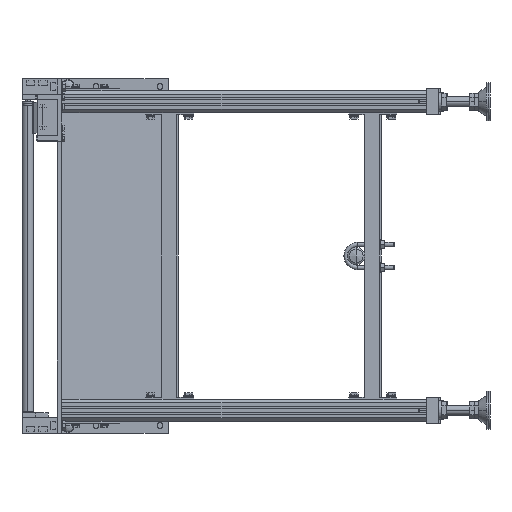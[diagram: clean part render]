
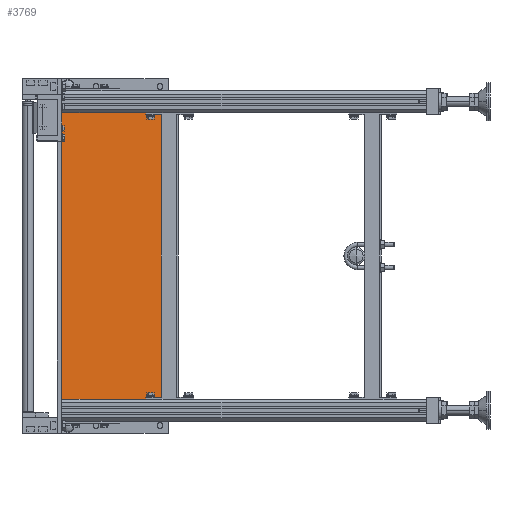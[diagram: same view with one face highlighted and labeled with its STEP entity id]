
A CAD part, left-side view. The second image highlights one B-rep face of the part: STEP entity #3769.
In plain terms, the highlighted planar face has unit normal (-0.993, -0.116, 0).
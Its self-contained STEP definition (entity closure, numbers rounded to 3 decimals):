
#3769=ADVANCED_FACE('',(#23726),#23725,.F.);
#23725=PLANE('',#46496);
#23726=FACE_OUTER_BOUND('',#46497,.T.);
#46493=CARTESIAN_POINT('',(809.662,-244.932,-270.));
#46494=DIRECTION('',(0.993,0.116,0.));
#46495=DIRECTION('',(-0.116,0.993,0.));
#46496=AXIS2_PLACEMENT_3D('',#46493,#46494,#46495);
#46497=EDGE_LOOP('',(#61673,#61674,#61675,#61676));
#61673=ORIENTED_EDGE('',*,*,#71463,.T.);
#61674=ORIENTED_EDGE('',*,*,#71473,.F.);
#61675=ORIENTED_EDGE('',*,*,#71454,.F.);
#61676=ORIENTED_EDGE('',*,*,#71502,.T.);
#71454=EDGE_CURVE('',#104257,#104264,#104265,.T.);
#71463=EDGE_CURVE('',#104306,#104320,#104327,.T.);
#71473=EDGE_CURVE('',#104264,#104320,#104395,.T.);
#71502=EDGE_CURVE('',#104257,#104306,#104595,.T.);
#104257=VERTEX_POINT('',#139866);
#104264=VERTEX_POINT('',#139870);
#104265=LINE('',#139871,#139872);
#104306=VERTEX_POINT('',#139894);
#104320=VERTEX_POINT('',#139902);
#104327=LINE('',#139906,#139907);
#104395=LINE('',#139944,#139945);
#104595=LINE('',#140057,#140058);
#139866=CARTESIAN_POINT('',(788.5,-64.,260.));
#139870=CARTESIAN_POINT('',(808.5,-235.,260.));
#139871=CARTESIAN_POINT('',(788.5,-64.,260.));
#139872=VECTOR('',#139873,172.166);
#139873=DIRECTION('',(0.116,-0.993,0.));
#139894=CARTESIAN_POINT('',(788.5,-64.,-260.));
#139902=CARTESIAN_POINT('',(808.5,-235.,-260.));
#139906=CARTESIAN_POINT('',(788.5,-64.,-260.));
#139907=VECTOR('',#139908,172.166);
#139908=DIRECTION('',(0.116,-0.993,0.));
#139944=CARTESIAN_POINT('',(808.5,-235.,260.));
#139945=VECTOR('',#139946,520.);
#139946=DIRECTION('',(0.,0.,-1.));
#140057=CARTESIAN_POINT('',(788.5,-64.,260.));
#140058=VECTOR('',#140059,520.);
#140059=DIRECTION('',(0.,0.,-1.));
